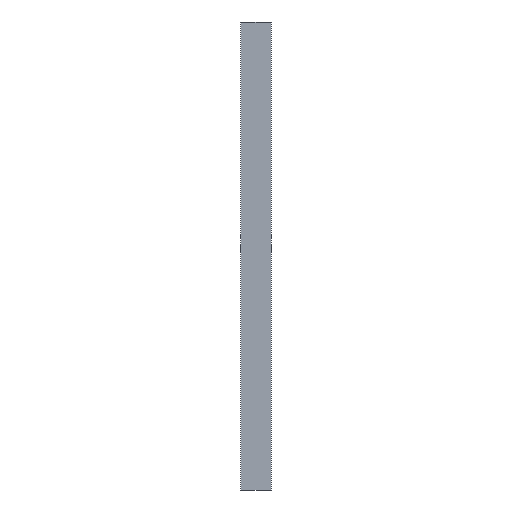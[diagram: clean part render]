
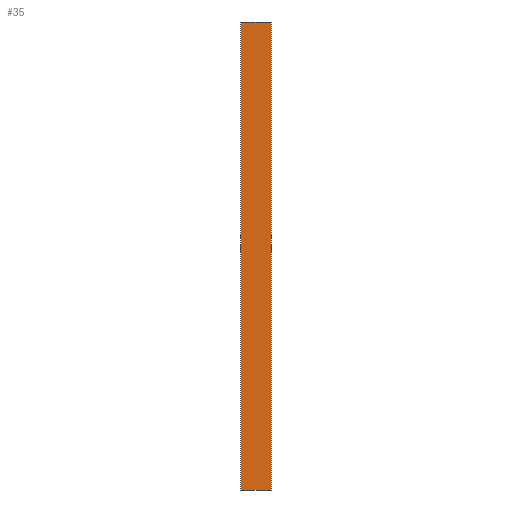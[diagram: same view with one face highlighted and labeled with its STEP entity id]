
A CAD part, left-side view. The second image highlights one B-rep face of the part: STEP entity #35.
In plain terms, the highlighted planar face has unit normal (-1, 0, 0).
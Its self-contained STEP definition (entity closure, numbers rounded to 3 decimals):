
#35 = ADVANCED_FACE('',(#36),#50,.F.);
#36 = FACE_BOUND('',#37,.F.);
#37 = EDGE_LOOP('',(#38,#73,#101,#129));
#38 = ORIENTED_EDGE('',*,*,#39,.F.);
#39 = EDGE_CURVE('',#40,#42,#44,.T.);
#40 = VERTEX_POINT('',#41);
#41 = CARTESIAN_POINT('',(-0.065,-1.,-15.5));
#42 = VERTEX_POINT('',#43);
#43 = CARTESIAN_POINT('',(-0.065,-1.,15.5));
#44 = SURFACE_CURVE('',#45,(#49,#61),.PCURVE_S1.);
#45 = LINE('',#46,#47);
#46 = CARTESIAN_POINT('',(-0.065,-1.,-15.5));
#47 = VECTOR('',#48,1.);
#48 = DIRECTION('',(0.,0.,1.));
#49 = PCURVE('',#50,#55);
#50 = PLANE('',#51);
#51 = AXIS2_PLACEMENT_3D('',#52,#53,#54);
#52 = CARTESIAN_POINT('',(-0.065,-1.,-15.5));
#53 = DIRECTION('',(1.,0.,-0.));
#54 = DIRECTION('',(0.,0.,1.));
#55 = DEFINITIONAL_REPRESENTATION('',(#56),#60);
#56 = LINE('',#57,#58);
#57 = CARTESIAN_POINT('',(0.,0.));
#58 = VECTOR('',#59,1.);
#59 = DIRECTION('',(1.,0.));
#60 = ( GEOMETRIC_REPRESENTATION_CONTEXT(2) 
PARAMETRIC_REPRESENTATION_CONTEXT() REPRESENTATION_CONTEXT('2D SPACE',''
  ) );
#61 = PCURVE('',#62,#67);
#62 = PLANE('',#63);
#63 = AXIS2_PLACEMENT_3D('',#64,#65,#66);
#64 = CARTESIAN_POINT('',(-0.065,-1.,-15.5));
#65 = DIRECTION('',(-0.,1.,0.));
#66 = DIRECTION('',(0.,0.,1.));
#67 = DEFINITIONAL_REPRESENTATION('',(#68),#72);
#68 = LINE('',#69,#70);
#69 = CARTESIAN_POINT('',(0.,0.));
#70 = VECTOR('',#71,1.);
#71 = DIRECTION('',(1.,0.));
#72 = ( GEOMETRIC_REPRESENTATION_CONTEXT(2) 
PARAMETRIC_REPRESENTATION_CONTEXT() REPRESENTATION_CONTEXT('2D SPACE',''
  ) );
#73 = ORIENTED_EDGE('',*,*,#74,.T.);
#74 = EDGE_CURVE('',#40,#75,#77,.T.);
#75 = VERTEX_POINT('',#76);
#76 = CARTESIAN_POINT('',(-0.065,1.,-15.5));
#77 = SURFACE_CURVE('',#78,(#82,#89),.PCURVE_S1.);
#78 = LINE('',#79,#80);
#79 = CARTESIAN_POINT('',(-0.065,-1.,-15.5));
#80 = VECTOR('',#81,1.);
#81 = DIRECTION('',(-0.,1.,0.));
#82 = PCURVE('',#50,#83);
#83 = DEFINITIONAL_REPRESENTATION('',(#84),#88);
#84 = LINE('',#85,#86);
#85 = CARTESIAN_POINT('',(0.,0.));
#86 = VECTOR('',#87,1.);
#87 = DIRECTION('',(0.,-1.));
#88 = ( GEOMETRIC_REPRESENTATION_CONTEXT(2) 
PARAMETRIC_REPRESENTATION_CONTEXT() REPRESENTATION_CONTEXT('2D SPACE',''
  ) );
#89 = PCURVE('',#90,#95);
#90 = PLANE('',#91);
#91 = AXIS2_PLACEMENT_3D('',#92,#93,#94);
#92 = CARTESIAN_POINT('',(-0.065,-1.,-15.5));
#93 = DIRECTION('',(0.,0.,1.));
#94 = DIRECTION('',(1.,0.,-0.));
#95 = DEFINITIONAL_REPRESENTATION('',(#96),#100);
#96 = LINE('',#97,#98);
#97 = CARTESIAN_POINT('',(0.,0.));
#98 = VECTOR('',#99,1.);
#99 = DIRECTION('',(0.,1.));
#100 = ( GEOMETRIC_REPRESENTATION_CONTEXT(2) 
PARAMETRIC_REPRESENTATION_CONTEXT() REPRESENTATION_CONTEXT('2D SPACE',''
  ) );
#101 = ORIENTED_EDGE('',*,*,#102,.T.);
#102 = EDGE_CURVE('',#75,#103,#105,.T.);
#103 = VERTEX_POINT('',#104);
#104 = CARTESIAN_POINT('',(-0.065,1.,15.5));
#105 = SURFACE_CURVE('',#106,(#110,#117),.PCURVE_S1.);
#106 = LINE('',#107,#108);
#107 = CARTESIAN_POINT('',(-0.065,1.,-15.5));
#108 = VECTOR('',#109,1.);
#109 = DIRECTION('',(0.,0.,1.));
#110 = PCURVE('',#50,#111);
#111 = DEFINITIONAL_REPRESENTATION('',(#112),#116);
#112 = LINE('',#113,#114);
#113 = CARTESIAN_POINT('',(0.,-2.));
#114 = VECTOR('',#115,1.);
#115 = DIRECTION('',(1.,0.));
#116 = ( GEOMETRIC_REPRESENTATION_CONTEXT(2) 
PARAMETRIC_REPRESENTATION_CONTEXT() REPRESENTATION_CONTEXT('2D SPACE',''
  ) );
#117 = PCURVE('',#118,#123);
#118 = PLANE('',#119);
#119 = AXIS2_PLACEMENT_3D('',#120,#121,#122);
#120 = CARTESIAN_POINT('',(-0.065,1.,-15.5));
#121 = DIRECTION('',(-0.,1.,0.));
#122 = DIRECTION('',(0.,0.,1.));
#123 = DEFINITIONAL_REPRESENTATION('',(#124),#128);
#124 = LINE('',#125,#126);
#125 = CARTESIAN_POINT('',(0.,0.));
#126 = VECTOR('',#127,1.);
#127 = DIRECTION('',(1.,0.));
#128 = ( GEOMETRIC_REPRESENTATION_CONTEXT(2) 
PARAMETRIC_REPRESENTATION_CONTEXT() REPRESENTATION_CONTEXT('2D SPACE',''
  ) );
#129 = ORIENTED_EDGE('',*,*,#130,.F.);
#130 = EDGE_CURVE('',#42,#103,#131,.T.);
#131 = SURFACE_CURVE('',#132,(#136,#143),.PCURVE_S1.);
#132 = LINE('',#133,#134);
#133 = CARTESIAN_POINT('',(-0.065,-1.,15.5));
#134 = VECTOR('',#135,1.);
#135 = DIRECTION('',(-0.,1.,0.));
#136 = PCURVE('',#50,#137);
#137 = DEFINITIONAL_REPRESENTATION('',(#138),#142);
#138 = LINE('',#139,#140);
#139 = CARTESIAN_POINT('',(31.,0.));
#140 = VECTOR('',#141,1.);
#141 = DIRECTION('',(0.,-1.));
#142 = ( GEOMETRIC_REPRESENTATION_CONTEXT(2) 
PARAMETRIC_REPRESENTATION_CONTEXT() REPRESENTATION_CONTEXT('2D SPACE',''
  ) );
#143 = PCURVE('',#144,#149);
#144 = PLANE('',#145);
#145 = AXIS2_PLACEMENT_3D('',#146,#147,#148);
#146 = CARTESIAN_POINT('',(-0.065,-1.,15.5));
#147 = DIRECTION('',(0.,0.,1.));
#148 = DIRECTION('',(1.,0.,-0.));
#149 = DEFINITIONAL_REPRESENTATION('',(#150),#154);
#150 = LINE('',#151,#152);
#151 = CARTESIAN_POINT('',(0.,0.));
#152 = VECTOR('',#153,1.);
#153 = DIRECTION('',(0.,1.));
#154 = ( GEOMETRIC_REPRESENTATION_CONTEXT(2) 
PARAMETRIC_REPRESENTATION_CONTEXT() REPRESENTATION_CONTEXT('2D SPACE',''
  ) );
